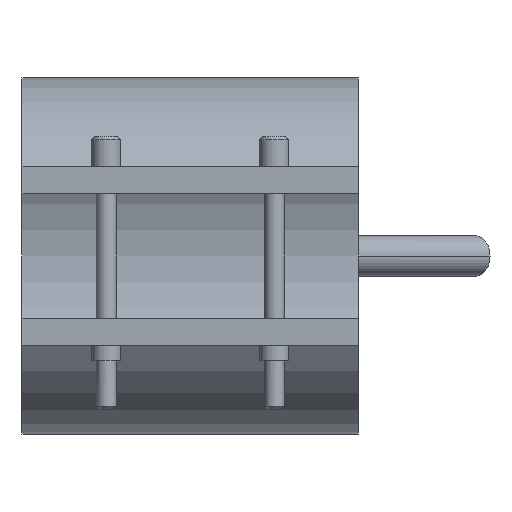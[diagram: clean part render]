
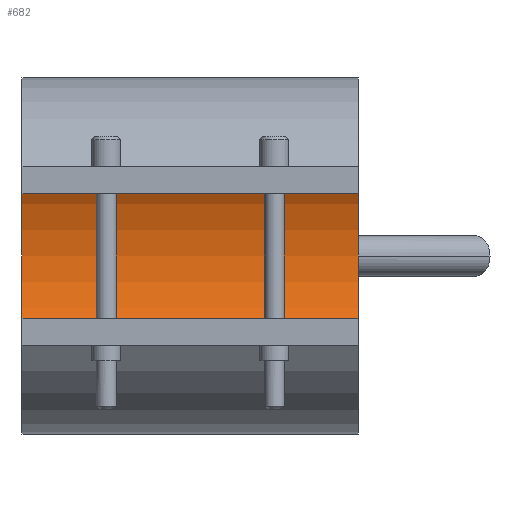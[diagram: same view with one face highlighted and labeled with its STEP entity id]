
A CAD part, front view. The second image highlights one B-rep face of the part: STEP entity #682.
In plain terms, the highlighted cylindrical face has radius 22.5 mm (diameter 45 mm), a partial arc.
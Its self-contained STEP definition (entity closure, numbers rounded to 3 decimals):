
#352=CARTESIAN_POINT('Vertex',(25.,0.,22.5)) ;
#357=CARTESIAN_POINT('Axis2P3D Location',(25.,0.,0.)) ;
#361=CARTESIAN_POINT('Vertex',(25.,0.,-22.5)) ;
#468=CARTESIAN_POINT('Vertex',(-25.,0.,-22.5)) ;
#471=CARTESIAN_POINT('Axis2P3D Location',(-25.,0.,0.)) ;
#475=CARTESIAN_POINT('Vertex',(-25.,0.,22.5)) ;
#654=CARTESIAN_POINT('Line Origine',(25.,0.,22.5)) ;
#666=CARTESIAN_POINT('Axis2P3D Location',(25.,0.,0.)) ;
#671=CARTESIAN_POINT('Line Origine',(25.,0.,-22.5)) ;
#358=DIRECTION('Axis2P3D Direction',(1.,0.,0.)) ;
#472=DIRECTION('Axis2P3D Direction',(1.,0.,0.)) ;
#655=DIRECTION('Vector Direction',(1.,0.,0.)) ;
#667=DIRECTION('Axis2P3D Direction',(1.,0.,-0.)) ;
#668=DIRECTION('Axis2P3D XDirection',(0.,0.,-1.)) ;
#672=DIRECTION('Vector Direction',(1.,0.,0.)) ;
#359=AXIS2_PLACEMENT_3D('Circle Axis2P3D',#357,#358,$) ;
#473=AXIS2_PLACEMENT_3D('Circle Axis2P3D',#471,#472,$) ;
#669=AXIS2_PLACEMENT_3D('Cylinder Axis2P3D',#666,#667,#668) ;
#677=ORIENTED_EDGE('',*,*,#363,.T.) ;
#678=ORIENTED_EDGE('',*,*,#658,.T.) ;
#679=ORIENTED_EDGE('',*,*,#477,.F.) ;
#680=ORIENTED_EDGE('',*,*,#675,.T.) ;
#656=VECTOR('Line Direction',#655,1.) ;
#673=VECTOR('Line Direction',#672,1.) ;
#682=ADVANCED_FACE('29045050',(#681),#670,.F.) ;
#360=CIRCLE('generated circle',#359,22.5) ;
#474=CIRCLE('generated circle',#473,22.5) ;
#670=CYLINDRICAL_SURFACE('generated cylinder',#669,22.5) ;
#363=EDGE_CURVE('',#362,#353,#360,.T.) ;
#477=EDGE_CURVE('',#469,#476,#474,.T.) ;
#658=EDGE_CURVE('',#353,#476,#657,.F.) ;
#675=EDGE_CURVE('',#469,#362,#674,.T.) ;
#676=EDGE_LOOP('',(#677,#678,#679,#680)) ;
#681=FACE_OUTER_BOUND('',#676,.T.) ;
#657=LINE('Line',#654,#656) ;
#674=LINE('Line',#671,#673) ;
#353=VERTEX_POINT('',#352) ;
#362=VERTEX_POINT('',#361) ;
#469=VERTEX_POINT('',#468) ;
#476=VERTEX_POINT('',#475) ;
